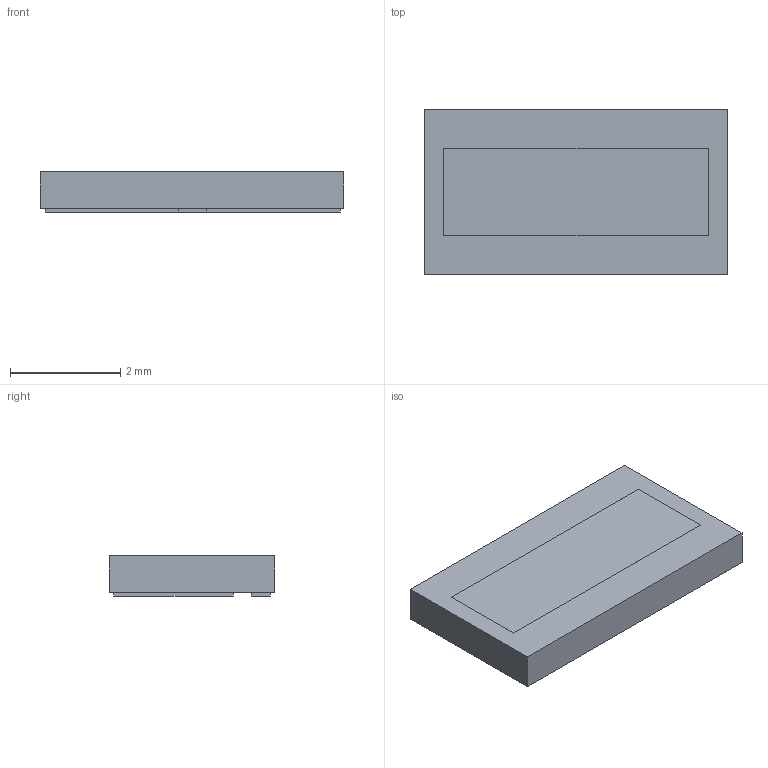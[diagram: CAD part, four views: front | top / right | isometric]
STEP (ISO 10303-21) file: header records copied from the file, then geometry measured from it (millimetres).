
FILE_DESCRIPTION (( 'STEP AP214' ), '1' );
FILE_NAME ('HGL3-H5.STEP', '2019-12-31T01:39:20', ( 'PC' ), ( 'Microsoft' ), 'SwSTEP 2.0', 'SolidWorks 2018', '' );
FILE_SCHEMA (( 'AUTOMOTIVE_DESIGN' ));
Length unit declared in the file: millimetre
Products named in the file (1): HGL3-H5
Bounding box: 5.5 x 3 x 0.73 mm (x, y, z)
Volume: 11.8 mm3; surface area: 46.1 mm2
Topology: 1 solids, 1 shells, 36 faces, 87 edges, 58 vertices
Faces by surface type: plane 36
Entity records: 1461 total; most frequent: CARTESIAN_POINT 182, ORIENTED_EDGE 174, DIRECTION 161, LINE 87, VECTOR 87, EDGE_CURVE 87, VERTEX_POINT 58, EDGE_LOOP 41
